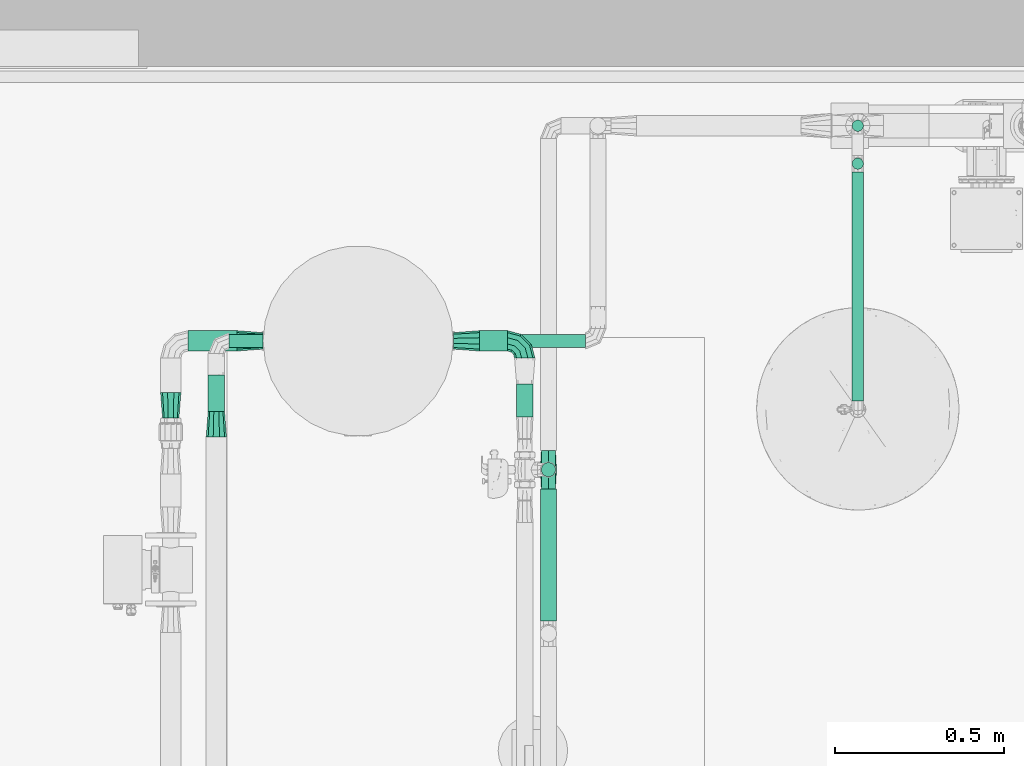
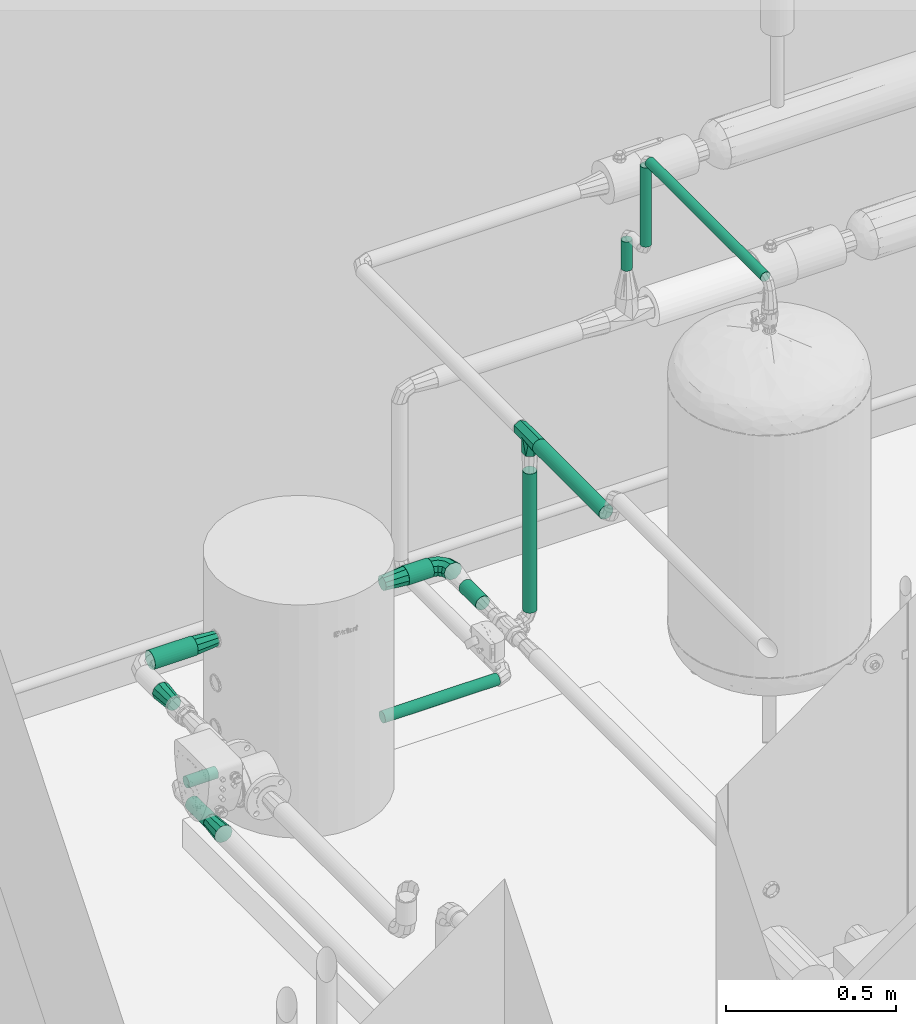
# One storey, part 69 of 94: 11 flow segments, 6 flow fittings.
"""IFC2X3 building model written with IfcOpenShell, lengths in millimetres."""

from ifc_helpers import new_model, entity, si_unit, converted_unit, derived_unit, direction, frame, frame_2d, origin, origin_2d_with_axis, place, context, subcontext, project, spatial, circle, extrude, faceted_brep, source, transform, mapped, material, type_object, type_shapes, element, save


model = new_model("IFC2X3")

# Units and contexts
model_context = context("Model", 3, precision=0.01, world=origin(), true_north=direction((6.123031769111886e-17, 1.0)))
body_context = subcontext(model_context, "Body", "Model", "MODEL_VIEW")
ifc_project = project(units=[si_unit("LENGTHUNIT", "METRE", prefix="MILLI"), si_unit("AREAUNIT", "SQUARE_METRE"), si_unit("VOLUMEUNIT", "CUBIC_METRE"), converted_unit("PLANEANGLEUNIT", "DEGREE", entity("IfcRatioMeasure", 0.017453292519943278), si_unit("PLANEANGLEUNIT", "RADIAN"), dimensions=[0, 0, 0, 0, 0, 0, 0]), si_unit("MASSUNIT", "GRAM", prefix="KILO"), derived_unit("MASSDENSITYUNIT", [(si_unit("MASSUNIT", "GRAM", prefix="KILO"), 1), (si_unit("LENGTHUNIT", "METRE"), -3)]), derived_unit("IONCONCENTRATIONUNIT", [(si_unit("MASSUNIT", "GRAM", prefix="KILO"), 1), (si_unit("LENGTHUNIT", "METRE"), -3)]), derived_unit("MOMENTOFINERTIAUNIT", [(si_unit("LENGTHUNIT", "METRE"), 4)]), si_unit("TIMEUNIT", "SECOND"), si_unit("FREQUENCYUNIT", "HERTZ"), si_unit("THERMODYNAMICTEMPERATUREUNIT", "DEGREE_CELSIUS"), derived_unit("THERMALTRANSMITTANCEUNIT", [(si_unit("MASSUNIT", "GRAM", prefix="KILO"), 1), (si_unit("THERMODYNAMICTEMPERATUREUNIT", "KELVIN"), -1), (si_unit("TIMEUNIT", "SECOND"), -3)]), derived_unit("THERMALCONDUCTANCEUNIT", [(si_unit("MASSUNIT", "GRAM", prefix="KILO"), 1), (si_unit("THERMODYNAMICTEMPERATUREUNIT", "KELVIN"), -1), (si_unit("TIMEUNIT", "SECOND"), -3), (si_unit("LENGTHUNIT", "METRE"), 1)]), derived_unit("VOLUMETRICFLOWRATEUNIT", [(si_unit("LENGTHUNIT", "METRE"), 3), (si_unit("TIMEUNIT", "SECOND"), -1)]), derived_unit("MASSFLOWRATEUNIT", [(si_unit("MASSUNIT", "GRAM", prefix="KILO"), 1), (si_unit("TIMEUNIT", "SECOND"), -1)]), derived_unit("ROTATIONALFREQUENCYUNIT", [(si_unit("TIMEUNIT", "SECOND"), -1)]), si_unit("ELECTRICCURRENTUNIT", "AMPERE"), si_unit("ELECTRICVOLTAGEUNIT", "VOLT"), si_unit("POWERUNIT", "WATT"), si_unit("FORCEUNIT", "NEWTON", prefix="KILO"), si_unit("ILLUMINANCEUNIT", "LUX"), si_unit("LUMINOUSFLUXUNIT", "LUMEN"), si_unit("LUMINOUSINTENSITYUNIT", "CANDELA"), derived_unit("USERDEFINED", [(si_unit("MASSUNIT", "GRAM", prefix="KILO"), -1), (si_unit("LENGTHUNIT", "METRE"), -2), (si_unit("TIMEUNIT", "SECOND"), 3), (si_unit("LUMINOUSFLUXUNIT", "LUMEN"), 1)]), derived_unit("USERDEFINED", [(si_unit("MASSUNIT", "GRAM", prefix="KILO"), 1), (si_unit("TIMEUNIT", "SECOND"), -3), (si_unit("LENGTHUNIT", "METRE"), 3), (si_unit("ELECTRICCURRENTUNIT", "AMPERE"), -2)]), derived_unit("SOUNDPOWERUNIT", [(si_unit("MASSUNIT", "GRAM", prefix="KILO"), 1), (si_unit("TIMEUNIT", "SECOND"), -3), (si_unit("LENGTHUNIT", "METRE"), 2)]), derived_unit("SOUNDPRESSUREUNIT", [(si_unit("MASSUNIT", "GRAM", prefix="KILO"), 1), (si_unit("LENGTHUNIT", "METRE"), -1), (si_unit("TIMEUNIT", "SECOND"), -2)]), derived_unit("LINEARVELOCITYUNIT", [(si_unit("LENGTHUNIT", "METRE"), 1), (si_unit("TIMEUNIT", "SECOND"), -1)]), si_unit("PRESSUREUNIT", "PASCAL"), derived_unit("USERDEFINED", [(si_unit("MASSUNIT", "GRAM", prefix="KILO"), 1), (si_unit("LENGTHUNIT", "METRE"), -2), (si_unit("TIMEUNIT", "SECOND"), -2)]), derived_unit("LINEARFORCEUNIT", [(si_unit("MASSUNIT", "GRAM", prefix="KILO"), 1), (si_unit("TIMEUNIT", "SECOND"), -2)]), derived_unit("PLANARFORCEUNIT", [(si_unit("MASSUNIT", "GRAM", prefix="KILO"), 1), (si_unit("LENGTHUNIT", "METRE"), -1), (si_unit("TIMEUNIT", "SECOND"), -2)]), derived_unit("SPECIFICHEATCAPACITYUNIT", [(si_unit("THERMODYNAMICTEMPERATUREUNIT", "KELVIN"), -1), (si_unit("LENGTHUNIT", "METRE"), 2), (si_unit("TIMEUNIT", "SECOND"), -2)]), derived_unit("HEATINGVALUEUNIT", [(si_unit("LENGTHUNIT", "METRE"), 2), (si_unit("TIMEUNIT", "SECOND"), -2)]), derived_unit("VAPORPERMEABILITYUNIT", [(si_unit("LENGTHUNIT", "METRE"), -1), (si_unit("TIMEUNIT", "SECOND"), 1)]), derived_unit("DYNAMICVISCOSITYUNIT", [(si_unit("MASSUNIT", "GRAM", prefix="KILO"), 1), (si_unit("TIMEUNIT", "SECOND"), -1), (si_unit("LENGTHUNIT", "METRE"), -1)]), derived_unit("THERMALEXPANSIONCOEFFICIENTUNIT", [(si_unit("THERMODYNAMICTEMPERATUREUNIT", "KELVIN"), -1)]), derived_unit("MODULUSOFELASTICITYUNIT", [(si_unit("MASSUNIT", "GRAM", prefix="KILO"), 1), (si_unit("LENGTHUNIT", "METRE"), -1), (si_unit("TIMEUNIT", "SECOND"), -2)]), derived_unit("ISOTHERMALMOISTURECAPACITYUNIT", [(si_unit("LENGTHUNIT", "METRE"), 3), (si_unit("MASSUNIT", "GRAM", prefix="KILO"), -1)]), derived_unit("MOISTUREDIFFUSIVITYUNIT", [(si_unit("TIMEUNIT", "SECOND"), -1), (si_unit("LENGTHUNIT", "METRE"), 2)])], contexts=[model_context])

# Site, building, storey
site_placement = place(None, origin())
site = spatial("IfcSite", under=ifc_project, at=site_placement, Name="Default", CompositionType="ELEMENT")
building_placement = place(site_placement, origin())
building = spatial("IfcBuilding", under=site, at=building_placement, CompositionType="ELEMENT")
storey_placement = place(building_placement, origin())
storey = spatial("IfcBuildingStorey", under=building, at=storey_placement, Name="Niveau 0", CompositionType="ELEMENT", Elevation=0.0)

# Flow segments
pipe_segment_type_1 = type_object("IfcPipeSegmentType", Name="Canalisation:Bride acier", PredefinedType="NOTDEFINED")
flow_segment_1_placement = place(storey_placement, origin())
element("IfcFlowSegment", 1, at=flow_segment_1_placement, inside=storey, type_object=pipe_segment_type_1, Name="Canalisation:Bride acier", ObjectType="Canalisation:Bride acier", context=body_context, shape_type="SweptSolid", body=[
    extrude(circle(Radius=30.162500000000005, at=origin_2d_with_axis()), frame((-12004.038466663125, 9285.477679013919, 718.3753033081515), z_axis=(1.0, 0.0, 0.0), x_axis=(0.0, -1.0, 0.0)), (0.0, 0.0, 1.0), 83.74776243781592),
])
flow_segment_2_placement = place(storey_placement, origin())
element("IfcFlowSegment", 2, at=flow_segment_2_placement, inside=storey, type_object=pipe_segment_type_1, Name="Canalisation:Bride acier", ObjectType="Canalisation:Bride acier", context=body_context, shape_type="SweptSolid", body=[
    extrude(circle(Radius=24.13, at=origin_2d_with_axis()), frame((-11869.290704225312, 9059.82787764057, 710.2331746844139), z_axis=(0.0, 1.0, 0.0), x_axis=(1.0, 0.0, 0.0)), (0.0, 0.0, 1.0), 98.6498013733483),
])
flow_segment_3_placement = place(storey_placement, origin())
element("IfcFlowSegment", 3, at=flow_segment_3_placement, inside=storey, type_object=pipe_segment_type_1, Name="Canalisation:Bride acier", ObjectType="Canalisation:Bride acier", context=body_context, shape_type="SweptSolid", body=[
    extrude(circle(Radius=24.13, at=origin_2d_with_axis()), frame((-11799.29070422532, 8456.371391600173, 1377.599999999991), z_axis=(0.0, 1.0, 0.0), x_axis=(1.0, 0.0, 0.0)), (0.0, 0.0, 1.0), 390.79228789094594),
])
flow_segment_4_placement = place(storey_placement, origin())
element("IfcFlowSegment", 4, at=flow_segment_4_placement, inside=storey, type_object=pipe_segment_type_1, Name="Canalisation:Bride acier", ObjectType="Canalisation:Bride acier", context=body_context, shape_type="SweptSolid", body=[
    extrude(circle(Radius=21.082, at=origin_2d_with_axis()), frame((-11799.290704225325, 8904.163679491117, 758.0000069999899)), (0.0, 0.0, 1.0), 498.5999930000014),
])
pipe_segment_type_2 = type_object("IfcPipeSegmentType", Name="Canalisation:Standard", PredefinedType="NOTDEFINED")
flow_segment_5_placement = place(storey_placement, origin())
element("IfcFlowSegment", 5, at=flow_segment_5_placement, inside=storey, type_object=pipe_segment_type_2, Name="Canalisation:Standard", ObjectType="Canalisation:Standard", context=body_context, shape_type="SweptSolid", body=[
    extrude(circle(Radius=16.7005, at=origin_2d_with_axis()), frame((-10883.23321817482, 9107.297419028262, 1506.130000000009), z_axis=(0.0, 1.0, 0.0), x_axis=(-1.0, 0.0, 0.0)), (0.0, 0.0, 1.0), 677.767386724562),
])
flow_segment_6_placement = place(storey_placement, origin())
element("IfcFlowSegment", 6, at=flow_segment_6_placement, inside=storey, type_object=pipe_segment_type_2, Name="Canalisation:Standard", ObjectType="Canalisation:Standard", context=body_context, shape_type="SweptSolid", body=[
    extrude(circle(Radius=16.7005, at=origin_2d_with_axis()), frame((-10883.23321817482, 9810.064805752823, 1197.1239046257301)), (0.0, 0.0, 1.0), 284.00609537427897),
])
flow_segment_7_placement = place(storey_placement, origin())
element("IfcFlowSegment", 7, at=flow_segment_7_placement, inside=storey, type_object=pipe_segment_type_2, Name="Canalisation:Standard", ObjectType="Canalisation:Standard", context=body_context, shape_type="SweptSolid", body=[
    extrude(circle(Radius=16.7005, at=frame_2d((0.0, -2.1657342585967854e-12), x_axis=(1.0, 0.0))), frame((-10883.2332181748, 9922.47054616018, 1042.6034575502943), z_axis=(0.0, 0.0, 1.0), x_axis=(-1.0, 0.0, 0.0)), (0.0, 0.0, 1.0), 104.515130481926),
])
flow_segment_8_placement = place(storey_placement, origin())
element("IfcFlowSegment", 8, at=flow_segment_8_placement, inside=storey, type_object=pipe_segment_type_2, Name="Canalisation:Standard", ObjectType="Canalisation:Standard", context=body_context, shape_type="SweptSolid", body=[
    extrude(circle(Radius=30.162500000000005, at=frame_2d((0.0, -1.353583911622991e-13), x_axis=(1.0, 0.0))), frame((-12866.538466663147, 9285.477679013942, 718.3753033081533), z_axis=(1.0, 0.0, 0.0), x_axis=(0.0, 1.0, 0.0)), (0.0, 0.0, 1.0), 145.50000000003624),
])
flow_segment_9_placement = place(storey_placement, origin())
element("IfcFlowSegment", 9, at=flow_segment_9_placement, inside=storey, type_object=pipe_segment_type_2, Name="Canalisation:Standard", ObjectType="Canalisation:Standard", context=body_context, shape_type="SweptSolid", body=[
    extrude(circle(Radius=24.13, at=frame_2d((0.0, -3.383959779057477e-14), x_axis=(1.0, 0.0))), frame((-12782.538466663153, 9076.22696833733, 238.3331676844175), z_axis=(0.0, 1.0, 0.0), x_axis=(1.0, 0.0, 0.0)), (0.0, 0.0, 1.0), 107.87699192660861),
])
flow_segment_10_placement = place(storey_placement, origin())
element("IfcFlowSegment", 10, at=flow_segment_10_placement, inside=storey, type_object=pipe_segment_type_2, Name="Canalisation:Standard", ObjectType="Canalisation:Standard", context=body_context, shape_type="SweptSolid", body=[
    extrude(circle(Radius=19.05, at=origin_2d_with_axis()), frame((-12745.164747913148, 9285.477679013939, 238.3753033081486), z_axis=(1.0, 0.0, 0.0), x_axis=(0.0, 1.0, 0.0)), (0.0, 0.0, 1.0), 100.12628125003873),
])
flow_segment_11_placement = place(storey_placement, origin())
element("IfcFlowSegment", 11, at=flow_segment_11_placement, inside=storey, type_object=pipe_segment_type_2, Name="Canalisation:Standard", ObjectType="Canalisation:Standard", context=body_context, shape_type="SweptSolid", body=[
    extrude(circle(Radius=19.05, at=origin_2d_with_axis()), frame((-12080.038466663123, 9285.477679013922, 238.37530330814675), z_axis=(1.0, 0.0, 0.0), x_axis=(0.0, -1.0, 0.0)), (0.0, 0.0, 1.0), 390.1262812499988),
])

# Flow fittings
ifc_material = material(Name="<Unnamed>")
pipe_fitting_type_1 = type_object("IfcPipeFittingType", Name="Té - Générique:Standard", PredefinedType="NOTDEFINED", material=ifc_material)
shared_shape_1 = source(origin(), body_context, "Body", "Brep", [
    faceted_brep([(-57.0, -24.150000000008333, 0.0), (-57.0, -21.13125000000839, 5.228628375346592), (-57.0, -18.112500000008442, 10.457256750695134), (-57.0, -12.075000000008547, 20.9145135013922), (-57.0, 0.0, 20.91451350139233), (-57.0, 12.074999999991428, 20.914513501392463), (-57.0, 18.112499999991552, 10.457256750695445), (-57.0, 24.149999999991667, 0.0), (-57.0, 18.112499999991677, -10.45725675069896), (-57.0, 12.074999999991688, -20.91451350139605), (-57.0, 0.0, -20.914513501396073), (-57.0, -12.075000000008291, -20.914513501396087), (-57.0, -18.11250000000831, -10.457256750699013), (57.0, 24.149999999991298, 0.0), (57.0, 18.112499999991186, 10.457256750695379), (57.0, 12.074999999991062, 20.914513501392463), (57.0, 0.0, 20.91451350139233), (57.0, -12.075000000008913, 20.9145135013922), (57.0, -18.112500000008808, 10.457256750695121), (57.0, -24.150000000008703, 0.0), (57.0, -21.13125000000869, -5.228628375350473), (57.0, -18.112500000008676, -10.457256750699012), (57.0, -12.075000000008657, -20.914513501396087), (57.0, 0.0, -20.914513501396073), (57.0, 12.074999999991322, -20.91451350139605), (57.0, 19.810999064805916, -7.515370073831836), (20.83718491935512, -20.837184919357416, 8.308413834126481), (17.52436983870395, -17.524369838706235, 16.6168276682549), (0.0, 0.0, 24.14999999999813), (-24.149999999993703, -24.15000000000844, 0.0), (-20.07541040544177, -20.07541040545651, 7.677582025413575), (-13.535622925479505, -13.535622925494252, 20.000235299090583), (24.150000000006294, -24.150000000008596, 0.0), (-18.842811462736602, -18.842811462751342, 10.000117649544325), (20.075410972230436, -20.075410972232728, -7.677580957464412), (18.842811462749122, -18.842811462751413, -10.000117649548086), (13.535622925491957, -13.535622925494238, -20.000235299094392), (-20.837184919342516, -20.837184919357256, -8.308413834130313), (0.0, 0.0, -24.15000000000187), (-17.524369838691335, -17.524369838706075, -16.616827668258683), (-18.112499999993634, -57.0, -10.457256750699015), (-12.074999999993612, -57.0, -20.914513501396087), (0.0, -57.0, -20.914513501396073), (12.075000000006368, -57.0, -20.91451350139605), (19.81099920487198, -57.0, -7.515369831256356), (24.150000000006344, -57.0, 0.0), (18.11250000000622, -57.0, 10.45725675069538), (12.075000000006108, -57.0, 20.914513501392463), (0.0, -57.0, 20.91451350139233), (-12.074999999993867, -57.0, 20.9145135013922), (-19.810999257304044, -57.0, 7.515369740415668), (-24.149999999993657, -57.0, 0.0)], [[[0, 1, 2, 3, 4, 5, 6, 7, 8, 9, 10, 11, 12]], [[13, 14, 15, 16, 17, 18, 19, 20, 21, 22, 23, 24, 25]], [[26, 19, 18]], [[27, 18, 17]], [[28, 17, 16, 15]], [[29, 30, 1]], [[2, 31, 3]], [[19, 26, 32]], [[0, 29, 1]], [[18, 27, 26]], [[17, 28, 27]], [[15, 14, 13, 7, 6, 5]], [[30, 2, 1]], [[31, 4, 3]], [[31, 28, 4]], [[5, 28, 15]], [[2, 30, 33, 31]], [[28, 5, 4]], [[9, 8, 7, 13, 25, 24]], [[21, 34, 35, 36]], [[0, 37, 29]], [[9, 24, 38]], [[12, 39, 37]], [[10, 9, 38, 11]], [[34, 21, 20]], [[23, 22, 36]], [[32, 20, 19]], [[36, 22, 21]], [[39, 11, 38]], [[32, 34, 20]], [[12, 37, 0]], [[38, 24, 23]], [[39, 12, 11]], [[36, 38, 23]], [[40, 41, 42, 43, 44, 45, 46, 47, 48, 49, 50, 51]], [[33, 49, 31]], [[29, 51, 50]], [[50, 33, 30, 29]], [[31, 49, 48]], [[27, 47, 46]], [[32, 46, 45]], [[49, 33, 50]], [[31, 48, 28]], [[46, 32, 26, 27]], [[28, 48, 47]], [[28, 47, 27]], [[35, 43, 36]], [[38, 41, 39]], [[43, 35, 44]], [[44, 35, 34, 32]], [[36, 43, 42]], [[29, 40, 51]], [[32, 45, 44]], [[39, 41, 40]], [[36, 42, 38]], [[40, 29, 37, 39]], [[38, 42, 41]]]),
])
type_shapes(pipe_fitting_type_1, [shared_shape_1])
flow_fitting_1_placement = place(storey_placement, frame((-11799.290704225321, 8904.163679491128, 1377.600000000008), z_axis=(-1.0, 0.0, 0.0), x_axis=(0.0, -1.0, 0.0)))
element("IfcFlowFitting", 12, at=flow_fitting_1_placement, inside=storey, type_object=pipe_fitting_type_1, material=ifc_material, Name="Té - Générique:Standard", ObjectType="Té - Générique:Standard", context=body_context, shape_type="MappedRepresentation", body=[
    mapped(shared_shape_1, transform((0.0, 0.0, 0.0), scale=1.0)),
])
pipe_fitting_type_2 = type_object("IfcPipeFittingType", Name="Coude - Générique:Standard", PredefinedType="NOTDEFINED", material=ifc_material)
shared_shape_2 = source(origin(), body_context, "Body", "Brep", [
    faceted_brep([(19.27796151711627, 10.424999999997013, 0.0), (14.291268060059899, 13.30406880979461, -17.72172535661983), (24.391862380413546, 51.0, -17.72172535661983), (30.15000000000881, 51.0, 0.0), (1.2359350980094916, 20.841568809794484, -28.674353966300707), (9.31686238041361, 51.0, -28.674353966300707), (-14.901343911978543, 30.158431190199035, -28.674353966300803), (-9.316862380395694, 51.0, -28.674353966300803), (-27.95667687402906, 37.695931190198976, -17.721725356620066), (-24.391862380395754, 51.0, -17.721725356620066), (-32.943370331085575, 40.574999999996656, 0.0), (-30.149999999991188, 51.0, 0.0), (-27.956676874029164, 37.69593119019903, 17.721725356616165), (-24.391862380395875, 51.0, 17.721725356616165), (-14.901343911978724, 30.158431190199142, 28.67435396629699), (-9.316862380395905, 51.0, 28.67435396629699), (1.235935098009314, 20.841568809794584, 28.674353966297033), (9.31686238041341, 51.0, 28.674353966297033), (14.291268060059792, 13.304068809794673, 17.721725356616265), (24.391862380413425, 51.0, 17.721725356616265), (-10.424999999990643, -19.277961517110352, 0.0), (-13.304068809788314, -14.291268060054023, -17.72172535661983), (-20.841568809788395, -1.2359350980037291, -28.674353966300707), (-30.15843119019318, 14.901343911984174, -28.674353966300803), (-37.69593119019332, 27.95667687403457, -17.721725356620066), (-40.57499999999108, 32.943370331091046, 0.0), (-37.69593119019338, 27.956676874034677, 17.721725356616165), (-30.158431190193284, 14.901343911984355, 28.67435396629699), (-20.841568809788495, -1.2359350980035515, 28.674353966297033), (-13.304068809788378, -14.291268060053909, 17.721725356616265), (-51.0, -30.1500000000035, 0.0), (-51.0, -24.39186238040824, -17.72172535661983), (-51.0, -9.316862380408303, -28.674353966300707), (-51.0, 9.316862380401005, -28.674353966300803), (-51.0, 24.391862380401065, -17.721725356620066), (-51.0, 30.1499999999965, 0.0), (-51.0, 24.391862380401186, 17.721725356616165), (-51.0, 9.316862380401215, 28.67435396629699), (-51.0, -9.316862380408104, 28.674353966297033), (-51.0, -24.391862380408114, 17.721725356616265)], [[[0, 1, 2, 3]], [[1, 4, 5, 2]], [[4, 6, 7, 5]], [[6, 8, 9, 7]], [[8, 10, 11, 9]], [[10, 12, 13, 11]], [[12, 14, 15, 13]], [[14, 16, 17, 15]], [[16, 18, 19, 17]], [[18, 0, 3, 19]], [[20, 21, 1, 0]], [[21, 22, 4, 1]], [[22, 23, 6, 4]], [[23, 24, 8, 6]], [[24, 25, 10, 8]], [[25, 26, 12, 10]], [[26, 27, 14, 12]], [[27, 28, 16, 14]], [[28, 29, 18, 16]], [[29, 20, 0, 18]], [[30, 31, 21, 20]], [[31, 32, 22, 21]], [[32, 33, 23, 22]], [[33, 34, 24, 23]], [[34, 35, 25, 24]], [[35, 36, 26, 25]], [[36, 37, 27, 26]], [[37, 38, 28, 27]], [[38, 39, 29, 28]], [[39, 30, 20, 29]], [[3, 2, 5, 7, 9, 11, 13, 15, 17, 19]], [[39, 38, 37, 36, 35, 34, 33, 32, 31, 30]]]),
])
type_shapes(pipe_fitting_type_2, [shared_shape_2])
flow_fitting_2_placement = place(storey_placement, frame((-11869.290704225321, 9285.477679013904, 718.3753033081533), z_axis=(0.0, 0.0, 1.0), x_axis=(0.0, 1.0, 0.0)))
element("IfcFlowFitting", 13, at=flow_fitting_2_placement, inside=storey, type_object=pipe_fitting_type_2, material=ifc_material, Name="Coude - Générique:Standard", ObjectType="Coude - Générique:Standard", context=body_context, shape_type="MappedRepresentation", body=[
    mapped(shared_shape_2, transform((0.0, 0.0, 0.0), scale=1.0)),
])
pipe_fitting_type_3 = type_object("IfcPipeFittingType", Name="Transformation - Générique:Standard", PredefinedType="NOTDEFINED", material=ifc_material)
shared_shape_3 = source(origin(), body_context, "Body", "Brep", [
    faceted_brep([(76.0, 24.391862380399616, -17.72172535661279), (76.0, 26.32859602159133, -11.761072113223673), (76.0, 28.23929801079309, -5.880536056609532), (76.0, 30.14999999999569, 0.0), (76.0, 28.239297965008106, 5.880536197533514), (76.0, 26.328595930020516, 11.761072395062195), (76.0, 24.391862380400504, 17.72172535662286), (76.0, 16.85436238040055, 23.198039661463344), (76.0, 9.316862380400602, 28.67435396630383), (76.0, 0.0, 28.674353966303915), (76.0, -9.316862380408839, 28.674353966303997), (76.0, -16.854362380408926, 23.198039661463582), (76.0, -24.391862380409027, 17.721725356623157), (76.0, -26.32859602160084, 11.761072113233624), (76.0, -28.239298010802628, 5.880536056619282), (76.0, -30.150000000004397, 0.0), (76.0, -28.23929796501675, -5.880536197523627), (76.0, -26.32859593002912, -11.761072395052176), (76.0, -24.391862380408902, -17.721725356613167), (76.0, -16.85436238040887, -23.198039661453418), (76.0, -9.316862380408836, -28.67435396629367), (76.0, 0.0, -28.67435396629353), (76.0, 9.31686238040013, -28.674353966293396), (76.0, 16.854362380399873, -23.19803966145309), (0.0, 24.25898437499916, 0.0), (0.0, 21.942457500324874, -7.129536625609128), (0.0, 19.62593062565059, -14.259073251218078), (0.0, 13.561184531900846, -18.665369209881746), (0.0, 7.496438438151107, -23.07166516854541), (0.0, 0.0, -23.071665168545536), (0.0, -7.496438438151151, -23.07166516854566), (0.0, -13.561184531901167, -18.665369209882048), (0.0, -19.62593062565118, -14.259073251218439), (0.0, -21.942457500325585, -7.12953662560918), (0.0, -24.258984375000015, 0.0), (0.0, -21.942457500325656, 7.129536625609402), (0.0, -19.625930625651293, 14.259073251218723), (0.0, -13.561184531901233, 18.665369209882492), (0.0, -7.496438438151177, 23.071665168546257), (0.0, 0.0, 23.0716651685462), (0.0, 7.49643843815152, 23.071665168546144), (0.0, 13.561184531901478, 18.665369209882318), (0.0, 19.625930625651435, 14.2590732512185), (0.0, 21.94245750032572, 7.12953662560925)], [[[0, 1, 2, 3, 4, 5, 6, 7, 8, 9, 10, 11, 12, 13, 14, 15, 16, 17, 18, 19, 20, 21, 22, 23]], [[24, 25, 26, 27, 28, 29, 30, 31, 32, 33, 34, 35, 36, 37, 38, 39, 40, 41, 42, 43]], [[32, 18, 17, 16, 15, 34, 33]], [[22, 28, 27, 26, 0, 23]], [[30, 20, 19, 18, 32, 31]], [[21, 20, 30, 29, 28, 22]], [[2, 1, 0, 26, 25, 24, 3]], [[42, 6, 5, 4, 3, 24, 43]], [[10, 38, 37, 36, 12, 11]], [[40, 8, 7, 6, 42, 41]], [[9, 8, 40, 39, 38, 10]], [[14, 13, 12, 36, 35, 34, 15]]]),
])
type_shapes(pipe_fitting_type_3, [shared_shape_3])
flow_fitting_3_placement = place(storey_placement, frame((-12645.038466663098, 9285.47767901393, 718.3753033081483), z_axis=(0.0, 0.0, 1.0), x_axis=(-1.0, 0.0, 0.0)))
element("IfcFlowFitting", 14, at=flow_fitting_3_placement, inside=storey, type_object=pipe_fitting_type_3, material=ifc_material, Name="Transformation - Générique:Standard", ObjectType="Transformation - Générique:Standard", context=body_context, shape_type="MappedRepresentation", body=[
    mapped(shared_shape_3, transform((0.0, 0.0, 0.0), scale=1.0)),
])
flow_fitting_4_placement = place(storey_placement, frame((-12080.038466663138, 9285.477679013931, 718.3753033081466)))
element("IfcFlowFitting", 15, at=flow_fitting_4_placement, inside=storey, type_object=pipe_fitting_type_3, material=ifc_material, Name="Transformation - Générique:Standard", ObjectType="Transformation - Générique:Standard", context=body_context, shape_type="MappedRepresentation", body=[
    mapped(shared_shape_3, transform((0.0, 0.0, 0.0), scale=1.0)),
])
pipe_fitting_type_4 = type_object("IfcPipeFittingType", Name="Transformation - Générique:Standard", PredefinedType="NOTDEFINED", material=ifc_material)
shared_shape_4 = source(origin(), body_context, "Body", "Brep", [
    faceted_brep([(76.0, 24.149999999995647, 0.0), (76.0, 21.843880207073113, 7.097506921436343), (76.0, 19.53776041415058, 14.195013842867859), (76.0, 13.500260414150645, 18.5815143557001), (76.0, 7.462760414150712, 22.968014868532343), (76.0, 0.0, 22.9680148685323), (76.0, -7.462760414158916, 22.968014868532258), (76.0, -13.500260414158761, 18.581514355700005), (76.0, -19.53776041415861, 14.195013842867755), (76.0, -21.843880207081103, 7.097506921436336), (76.0, -24.15000000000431, 0.0), (76.0, -21.843880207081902, -7.09750692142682), (76.0, -19.537760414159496, -14.195013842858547), (76.0, -13.500260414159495, -18.581514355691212), (76.0, -7.4627604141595, -22.96801486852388), (76.0, 0.0, -22.968014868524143), (76.0, 7.462760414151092, -22.968014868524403), (76.0, 13.50026041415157, -18.581514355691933), (76.0, 19.537760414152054, -14.195013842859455), (76.0, 21.84388020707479, -7.097506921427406), (0.0, -30.149999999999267, 0.0), (0.0, -27.270931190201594, 8.860862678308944), (0.0, -24.39186238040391, 17.721725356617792), (0.0, -16.85436238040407, 23.19803966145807), (0.0, -9.316862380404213, 28.674353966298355), (0.0, 0.0, 28.67435396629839), (0.0, 9.316862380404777, 28.674353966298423), (0.0, 16.854362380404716, 23.198039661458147), (0.0, 24.391862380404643, 17.721725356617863), (0.0, 26.332850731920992, 11.747977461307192), (0.0, 28.24142536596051, 5.873988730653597), (0.0, 30.150000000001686, 0.0), (0.0, 27.270931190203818, -8.860862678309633), (0.0, 24.391862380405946, -17.721725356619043), (0.0, 16.854362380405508, -23.198039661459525), (0.0, 9.316862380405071, -28.674353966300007), (0.0, 0.0, -28.674353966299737), (0.0, -9.316862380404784, -28.674353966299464), (0.0, -16.85436238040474, -23.198039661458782), (0.0, -24.39186238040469, -17.721725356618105), (0.0, -26.332850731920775, -11.747977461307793), (0.0, -28.241425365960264, -5.873988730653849)], [[[0, 1, 2, 3, 4, 5, 6, 7, 8, 9, 10, 11, 12, 13, 14, 15, 16, 17, 18, 19]], [[20, 21, 22, 23, 24, 25, 26, 27, 28, 29, 30, 31, 32, 33, 34, 35, 36, 37, 38, 39, 40, 41]], [[19, 18, 33, 32, 31, 0]], [[36, 35, 16, 15, 14, 37]], [[35, 34, 33, 18, 17, 16]], [[41, 40, 39, 12, 11, 10, 20]], [[14, 13, 12, 39, 38, 37]], [[9, 8, 22, 21, 20, 10]], [[25, 24, 6, 5, 4, 26]], [[24, 23, 22, 8, 7, 6]], [[30, 29, 28, 2, 1, 0, 31]], [[4, 3, 2, 28, 27, 26]]]),
])
type_shapes(pipe_fitting_type_4, [shared_shape_4])
for number, where, z_axis, x_axis in (
    (16, (-12782.538466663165, 9000.226968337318, 238.33316768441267), (0.0, 0.0, 1.0), (0.0, 1.0, 0.0)),
    (17, (-12917.53846666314, 9132.899611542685, 718.3753033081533), (0.0, 0.0, 1.0), (0.0, -1.0, 0.0)),
):
    element("IfcFlowFitting", number, at=place(storey_placement, frame(where, z_axis=z_axis, x_axis=x_axis)), inside=storey, type_object=pipe_fitting_type_4, material=ifc_material, Name="Transformation - Générique:Standard", ObjectType="Transformation - Générique:Standard", context=body_context, shape_type="MappedRepresentation", body=[
        mapped(shared_shape_4, transform((0.0, 0.0, 0.0), scale=1.0)),
    ])

save(model, "model.ifc")
